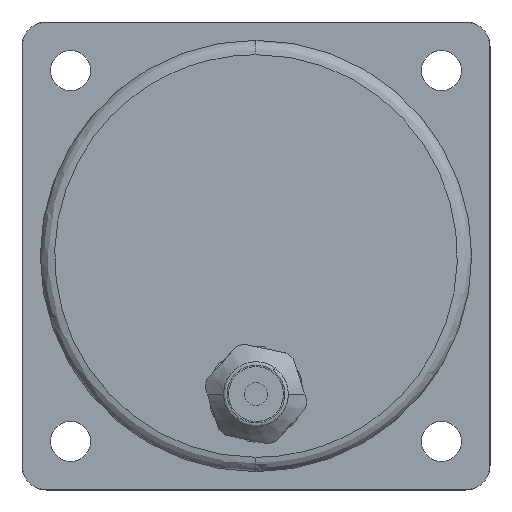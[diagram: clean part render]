
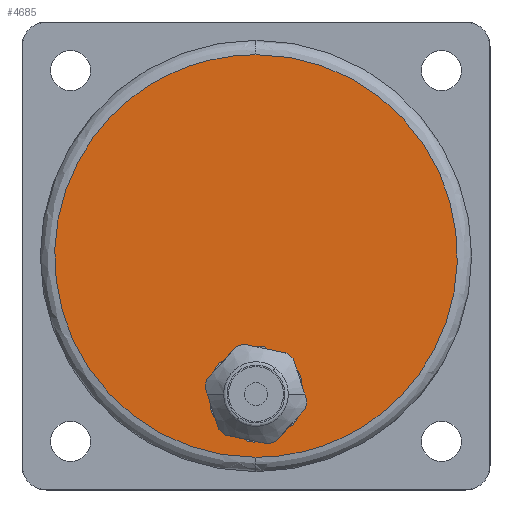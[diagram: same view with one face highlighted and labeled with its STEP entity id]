
A CAD part, front view. The second image highlights one B-rep face of the part: STEP entity #4685.
In plain terms, the highlighted planar face has unit normal (0, -1, 0).
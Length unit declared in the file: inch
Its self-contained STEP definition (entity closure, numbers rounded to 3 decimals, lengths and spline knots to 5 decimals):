
#154 = EDGE_CURVE ( 'NONE', #7412, #7422, #10988, .T. ) ;
#360 = EDGE_CURVE ( 'NONE', #7422, #7412, #10930, .T. ) ;
#440 = EDGE_CURVE ( 'NONE', #7184, #7108, #5041, .T. ) ;
#567 = EDGE_CURVE ( 'NONE', #7108, #7184, #5138, .T. ) ;
#2372 = DIRECTION ( 'NONE',  ( 0., 1., 0. ) ) ;
#2395 = CARTESIAN_POINT ( 'NONE',  ( -1.31965, -6.07345, -1.31965 ) ) ;
#2396 = PLANE ( 'NONE',  #8132 ) ;
#2398 = DIRECTION ( 'NONE',  ( 0., 0., 1. ) ) ;
#3228 = CARTESIAN_POINT ( 'NONE',  ( 0., -6.07345, 1.304 ) ) ;
#3298 = CARTESIAN_POINT ( 'NONE',  ( 0., -6.07345, -1.304 ) ) ;
#3846 = CARTESIAN_POINT ( 'NONE',  ( 0., -6.07345, 1.304 ) ) ;
#3847 = CARTESIAN_POINT ( 'NONE',  ( -2.608, -6.07345, 1.304 ) ) ;
#3848 = CARTESIAN_POINT ( 'NONE',  ( -2.608, -6.07345, -1.304 ) ) ;
#3849 = CARTESIAN_POINT ( 'NONE',  ( 0., -6.07345, -1.304 ) ) ;
#3867 = CARTESIAN_POINT ( 'NONE',  ( 0., -6.07345, -1.304 ) ) ;
#3868 = CARTESIAN_POINT ( 'NONE',  ( 2.608, -6.07345, -1.304 ) ) ;
#3871 = CARTESIAN_POINT ( 'NONE',  ( 0., -6.07345, 1.304 ) ) ;
#3873 = CARTESIAN_POINT ( 'NONE',  ( 2.608, -6.07345, 1.304 ) ) ;
#3988 = DIRECTION ( 'NONE',  ( 0., 0., 1. ) ) ;
#3994 = CARTESIAN_POINT ( 'NONE',  ( 0., -6.07345, -0.8943 ) ) ;
#3995 = DIRECTION ( 'NONE',  ( 0., -1., 0. ) ) ;
#4376 = DIRECTION ( 'NONE',  ( 0., 0., 1. ) ) ;
#4377 = DIRECTION ( 'NONE',  ( 0., -1., 0. ) ) ;
#4378 = CARTESIAN_POINT ( 'NONE',  ( 0., -6.07345, -0.8943 ) ) ;
#4685 = ADVANCED_FACE ( 'NONE', ( #8802, #8980 ), #2396, .F. ) ;
#5041 =( BOUNDED_CURVE ( )  B_SPLINE_CURVE ( 3, ( #3849, #3848, #3847, #3846 ),
 .UNSPECIFIED., .F., .F. ) 
 B_SPLINE_CURVE_WITH_KNOTS ( ( 4, 4 ),
 ( 0., 1. ),
 .UNSPECIFIED. ) 
 CURVE ( )  GEOMETRIC_REPRESENTATION_ITEM ( )  RATIONAL_B_SPLINE_CURVE ( ( 0.957, 0.319, 0.319, 0.957 ) ) 
 REPRESENTATION_ITEM ( '' )  );
#5138 =( BOUNDED_CURVE ( )  B_SPLINE_CURVE ( 3, ( #3871, #3873, #3868, #3867 ),
 .UNSPECIFIED., .F., .F. ) 
 B_SPLINE_CURVE_WITH_KNOTS ( ( 4, 4 ),
 ( 0., 1. ),
 .UNSPECIFIED. ) 
 CURVE ( )  GEOMETRIC_REPRESENTATION_ITEM ( )  RATIONAL_B_SPLINE_CURVE ( ( 0.957, 0.319, 0.319, 0.957 ) ) 
 REPRESENTATION_ITEM ( '' )  );
#5447 = AXIS2_PLACEMENT_3D ( 'NONE', #3994, #3995, #3988 ) ;
#5580 = AXIS2_PLACEMENT_3D ( 'NONE', #4378, #4377, #4376 ) ;
#6871 = CARTESIAN_POINT ( 'NONE',  ( 0., -6.07345, -1.1443 ) ) ;
#6881 = CARTESIAN_POINT ( 'NONE',  ( 0., -6.07345, -0.6443 ) ) ;
#7108 = VERTEX_POINT ( 'NONE', #3228 ) ;
#7184 = VERTEX_POINT ( 'NONE', #3298 ) ;
#7262 = ORIENTED_EDGE ( 'NONE', *, *, #154, .F. ) ;
#7412 = VERTEX_POINT ( 'NONE', #6871 ) ;
#7422 = VERTEX_POINT ( 'NONE', #6881 ) ;
#8132 = AXIS2_PLACEMENT_3D ( 'NONE', #2395, #2372, #2398 ) ;
#8802 = FACE_BOUND ( 'NONE', #12189, .T. ) ;
#8980 = FACE_OUTER_BOUND ( 'NONE', #12186, .T. ) ;
#10930 = CIRCLE ( 'NONE', #5447, 0.25 ) ;
#10988 = CIRCLE ( 'NONE', #5580, 0.25 ) ;
#11726 = ORIENTED_EDGE ( 'NONE', *, *, #567, .F. ) ;
#12142 = ORIENTED_EDGE ( 'NONE', *, *, #440, .F. ) ;
#12186 = EDGE_LOOP ( 'NONE', ( #11726, #12142 ) ) ;
#12189 = EDGE_LOOP ( 'NONE', ( #12222, #7262 ) ) ;
#12222 = ORIENTED_EDGE ( 'NONE', *, *, #360, .F. ) ;
